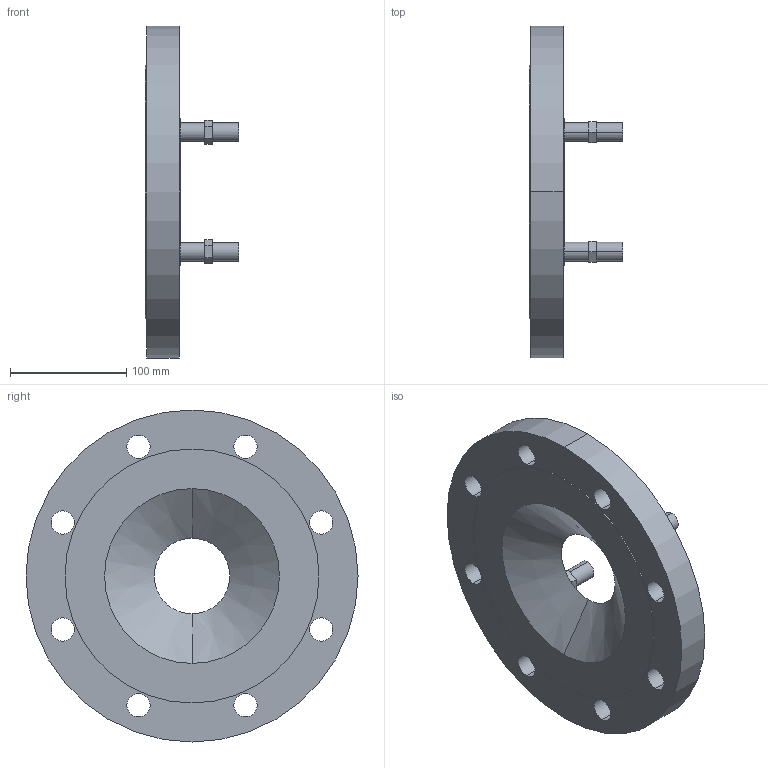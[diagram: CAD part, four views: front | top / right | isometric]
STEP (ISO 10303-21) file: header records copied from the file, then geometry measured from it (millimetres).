
FILE_DESCRIPTION(('STEP AP214'),'1');
FILE_NAME('S:/EK/USER/CAT6/3DHomepage_27-04-2012/VDI-Rohrsysteme_und_Stahlrohre/0802_(8110)/0802_PN16_DN150_DN65.STP','2013-01-25T07:22:55',(' '),(' '),'Spatial InterOp 3D',' ',' ');
FILE_SCHEMA(('automotive_design'));
Length unit declared in the file: millimetre
Products named in the file (10): 3D-Objekt
Bounding box: 80 x 285 x 285 mm (x, y, z)
Volume: 1526773.9 mm3; surface area: 213223.7 mm2
Topology: 10 solids, 10 shells, 79 faces, 174 edges, 116 vertices
Faces by surface type: plane 45, cylinder 32, cone 2
Entity records: 3100 total; most frequent: DIRECTION 420, CARTESIAN_POINT 379, ORIENTED_EDGE 348, EDGE_CURVE 174, AXIS2_PLACEMENT_3D 157, VERTEX_POINT 116, LINE 106, VECTOR 106
